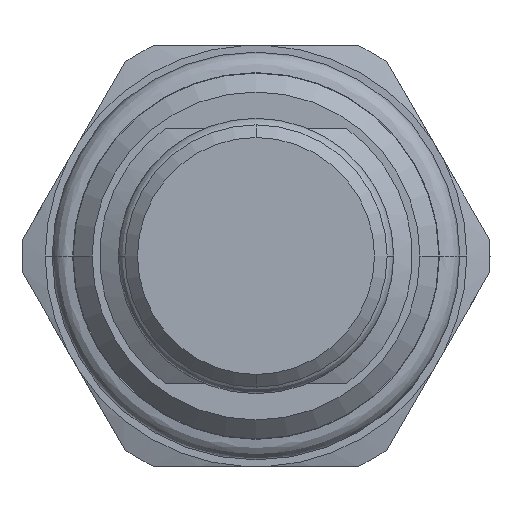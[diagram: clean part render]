
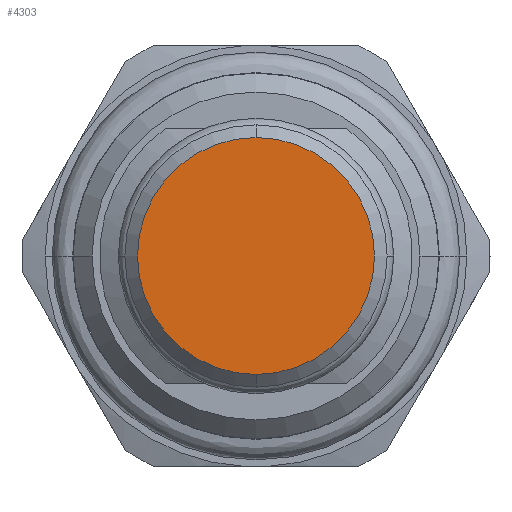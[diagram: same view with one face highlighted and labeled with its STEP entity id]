
A CAD part, front view. The second image highlights one B-rep face of the part: STEP entity #4303.
In plain terms, the highlighted planar face has unit normal (0, -1, 0).
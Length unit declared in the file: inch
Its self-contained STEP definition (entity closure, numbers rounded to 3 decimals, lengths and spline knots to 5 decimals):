
#1842=CARTESIAN_POINT('',(0.,-1.2535,0.));
#1843=DIRECTION('',(0.,1.,0.));
#1844=DIRECTION('',(0.,0.,-1.));
#1845=AXIS2_PLACEMENT_3D('',#1842,#1843,#1844);
#1852=CARTESIAN_POINT('',(0.,-1.2535,0.));
#1853=DIRECTION('',(0.,1.,0.));
#1854=DIRECTION('',(0.,0.,1.));
#1855=AXIS2_PLACEMENT_3D('',#1852,#1853,#1854);
#1963=CARTESIAN_POINT('',(0.,-1.2535,-0.281));
#1964=CARTESIAN_POINT('',(0.,-1.2535,0.281));
#1965=VERTEX_POINT('',#1963);
#1966=VERTEX_POINT('',#1964);
#4293=CARTESIAN_POINT('',(0.,-1.2535,0.));
#4294=DIRECTION('',(0.,-1.,0.));
#4295=DIRECTION('',(0.,0.,-1.));
#4296=AXIS2_PLACEMENT_3D('',#4293,#4294,#4295);
#4297=PLANE('',#4296);
#4299=ORIENTED_EDGE('',*,*,#4298,.T.);
#4300=ORIENTED_EDGE('',*,*,#4283,.T.);
#4301=EDGE_LOOP('',(#4299,#4300));
#4302=FACE_OUTER_BOUND('',#4301,.F.);
#4303=ADVANCED_FACE('',(#4302),#4297,.T.);
#1846=CIRCLE('',#1845,0.281);
#1856=CIRCLE('',#1855,0.281);
#4283=EDGE_CURVE('',#1965,#1966,#1846,.T.);
#4298=EDGE_CURVE('',#1966,#1965,#1856,.T.);
